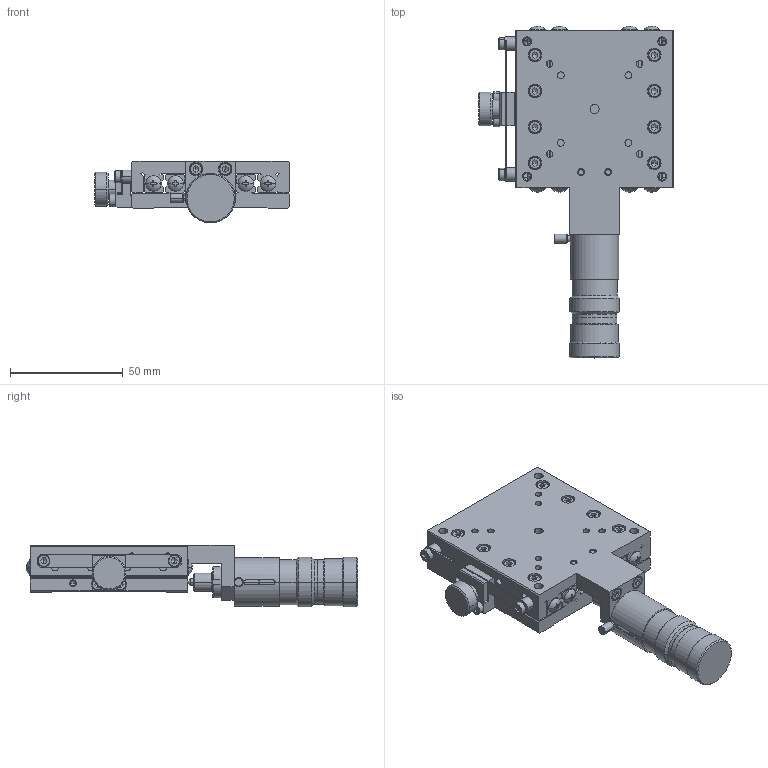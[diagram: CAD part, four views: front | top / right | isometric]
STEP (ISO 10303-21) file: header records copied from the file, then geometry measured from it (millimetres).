
FILE_DESCRIPTION (( 'STEP AP214' ), '1' );
FILE_NAME ('XM07F-C3Z-R-CL.STEP', '2009-05-11T06:11:18', ( ' ' ), ( ' ' ), 'SwSTEP 2.0', 'SolidWorks 2008', '' );
FILE_SCHEMA (( 'AUTOMOTIVE_DESIGN' ));
Length unit declared in the file: millimetre
Products named in the file (5): 001550-1023(3D)-Part-1; 001550-1023(3D); XM07F-C3Z-R-CL; 001550-1011(3D); 001550-1023(3D)-Part-2
Assembly tree (4 placements, depth 3):
  XM07F-C3Z-R-CL
    001550-1023(3D)
      001550-1023(3D)-Part-2
      001550-1023(3D)-Part-1
    001550-1011(3D)
Bounding box: 86.5 x 147.37 x 27.5 mm (x, y, z)
Volume: 109576.7 mm3; surface area: 53221.8 mm2
Topology: 3 solids, 41 shells, 1786 faces, 4331 edges, 2622 vertices
Faces by surface type: plane 804, cylinder 566, cone 383, sphere 17, torus 16
Entity records: 52726 total; most frequent: CARTESIAN_POINT 10439, DIRECTION 9294, ORIENTED_EDGE 8482, EDGE_CURVE 4241, AXIS2_PLACEMENT_3D 3565, VERTEX_POINT 2621, VECTOR 2164, LINE 2164
